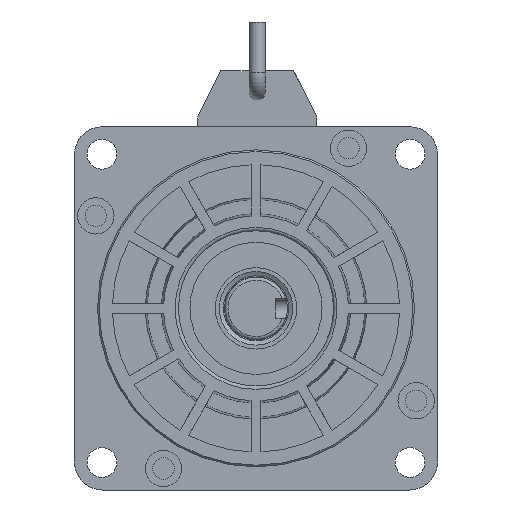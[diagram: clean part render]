
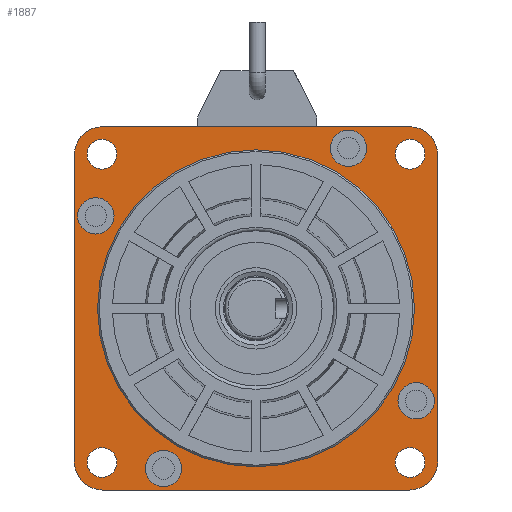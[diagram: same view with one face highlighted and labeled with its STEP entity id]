
A CAD part, front view. The second image highlights one B-rep face of the part: STEP entity #1887.
In plain terms, the highlighted planar face has unit normal (0, -1, 0).
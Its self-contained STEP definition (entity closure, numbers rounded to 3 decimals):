
#795=FACE_BOUND('',#3760,.T.);
#796=FACE_BOUND('',#3761,.T.);
#797=FACE_BOUND('',#3762,.T.);
#798=FACE_BOUND('',#3763,.T.);
#799=FACE_BOUND('',#3764,.T.);
#800=FACE_BOUND('',#3765,.T.);
#801=FACE_BOUND('',#3766,.T.);
#802=FACE_BOUND('',#3767,.T.);
#803=FACE_BOUND('',#3768,.T.);
#804=FACE_BOUND('',#3769,.T.);
#1171=CIRCLE('',#13243,8.5);
#1172=CIRCLE('',#13245,8.5);
#1173=CIRCLE('',#13247,5.5);
#1174=CIRCLE('',#13249,5.5);
#1270=CIRCLE('',#13419,48.);
#1271=CIRCLE('',#13421,4.5);
#1272=CIRCLE('',#13422,4.5);
#1273=CIRCLE('',#13423,4.5);
#1274=CIRCLE('',#13424,4.5);
#1275=CIRCLE('',#13425,8.5);
#1276=CIRCLE('',#13426,8.5);
#1277=CIRCLE('',#13427,5.5);
#1278=CIRCLE('',#13428,5.5);
#1887=ADVANCED_FACE('',(#795,#796,#797,#798,#799,#800,#801,#802,#803,#804),
#2363,.T.);
#2363=PLANE('',#13429);
#3760=EDGE_LOOP('',(#6770));
#3761=EDGE_LOOP('',(#6771));
#3762=EDGE_LOOP('',(#6772));
#3763=EDGE_LOOP('',(#6773));
#3764=EDGE_LOOP('',(#6774,#6775,#6776,#6777,#6778,#6779,#6780,#6781));
#3765=EDGE_LOOP('',(#6782));
#3766=EDGE_LOOP('',(#6783));
#3767=EDGE_LOOP('',(#6784));
#3768=EDGE_LOOP('',(#6785));
#3769=EDGE_LOOP('',(#6786));
#6770=ORIENTED_EDGE('',*,*,#10053,.T.);
#6771=ORIENTED_EDGE('',*,*,#10054,.T.);
#6772=ORIENTED_EDGE('',*,*,#10055,.T.);
#6773=ORIENTED_EDGE('',*,*,#10056,.T.);
#6774=ORIENTED_EDGE('',*,*,#10057,.T.);
#6775=ORIENTED_EDGE('',*,*,#10058,.F.);
#6776=ORIENTED_EDGE('',*,*,#9792,.T.);
#6777=ORIENTED_EDGE('',*,*,#9885,.F.);
#6778=ORIENTED_EDGE('',*,*,#9788,.T.);
#6779=ORIENTED_EDGE('',*,*,#10059,.F.);
#6780=ORIENTED_EDGE('',*,*,#10060,.T.);
#6781=ORIENTED_EDGE('',*,*,#10061,.F.);
#6782=ORIENTED_EDGE('',*,*,#9795,.T.);
#6783=ORIENTED_EDGE('',*,*,#9794,.T.);
#6784=ORIENTED_EDGE('',*,*,#10052,.F.);
#6785=ORIENTED_EDGE('',*,*,#10062,.T.);
#6786=ORIENTED_EDGE('',*,*,#10063,.T.);
#8242=VERTEX_POINT('',#20145);
#8243=VERTEX_POINT('',#20146);
#8244=VERTEX_POINT('',#20151);
#8245=VERTEX_POINT('',#20153);
#8246=VERTEX_POINT('',#20157);
#8247=VERTEX_POINT('',#20160);
#8412=VERTEX_POINT('',#20911);
#8413=VERTEX_POINT('',#20914);
#8414=VERTEX_POINT('',#20916);
#8415=VERTEX_POINT('',#20918);
#8416=VERTEX_POINT('',#20920);
#8417=VERTEX_POINT('',#20922);
#8418=VERTEX_POINT('',#20923);
#8419=VERTEX_POINT('',#20926);
#8420=VERTEX_POINT('',#20928);
#8421=VERTEX_POINT('',#20931);
#8422=VERTEX_POINT('',#20933);
#9788=EDGE_CURVE('',#8242,#8243,#1171,.T.);
#9792=EDGE_CURVE('',#8245,#8244,#1172,.T.);
#9794=EDGE_CURVE('',#8246,#8246,#1173,.T.);
#9795=EDGE_CURVE('',#8247,#8247,#1174,.T.);
#9885=EDGE_CURVE('',#8242,#8244,#11169,.T.);
#10052=EDGE_CURVE('',#8412,#8412,#1270,.T.);
#10053=EDGE_CURVE('',#8413,#8413,#1271,.T.);
#10054=EDGE_CURVE('',#8414,#8414,#1272,.T.);
#10055=EDGE_CURVE('',#8415,#8415,#1273,.T.);
#10056=EDGE_CURVE('',#8416,#8416,#1274,.T.);
#10057=EDGE_CURVE('',#8417,#8418,#1275,.T.);
#10058=EDGE_CURVE('',#8245,#8418,#11253,.T.);
#10059=EDGE_CURVE('',#8419,#8243,#11254,.T.);
#10060=EDGE_CURVE('',#8419,#8420,#1276,.T.);
#10061=EDGE_CURVE('',#8417,#8420,#11255,.T.);
#10062=EDGE_CURVE('',#8421,#8421,#1277,.T.);
#10063=EDGE_CURVE('',#8422,#8422,#1278,.T.);
#11169=LINE('',#20552,#12285);
#11253=LINE('',#20924,#12369);
#11254=LINE('',#20925,#12370);
#11255=LINE('',#20929,#12371);
#12285=VECTOR('',#16259,1.);
#12369=VECTOR('',#16583,1.);
#12370=VECTOR('',#16584,1.);
#12371=VECTOR('',#16587,1.);
#13243=AXIS2_PLACEMENT_3D('',#20144,#16088,#16089);
#13245=AXIS2_PLACEMENT_3D('',#20152,#16095,#16096);
#13247=AXIS2_PLACEMENT_3D('',#20156,#16100,#16101);
#13249=AXIS2_PLACEMENT_3D('',#20159,#16104,#16105);
#13419=AXIS2_PLACEMENT_3D('',#20910,#16569,#16570);
#13421=AXIS2_PLACEMENT_3D('',#20913,#16573,#16574);
#13422=AXIS2_PLACEMENT_3D('',#20915,#16575,#16576);
#13423=AXIS2_PLACEMENT_3D('',#20917,#16577,#16578);
#13424=AXIS2_PLACEMENT_3D('',#20919,#16579,#16580);
#13425=AXIS2_PLACEMENT_3D('',#20921,#16581,#16582);
#13426=AXIS2_PLACEMENT_3D('',#20927,#16585,#16586);
#13427=AXIS2_PLACEMENT_3D('',#20930,#16588,#16589);
#13428=AXIS2_PLACEMENT_3D('',#20932,#16590,#16591);
#13429=AXIS2_PLACEMENT_3D('',#20934,#16592,#16593);
#16088=DIRECTION('',(0.,-1.,0.));
#16089=DIRECTION('',(-1.,0.,0.));
#16095=DIRECTION('',(0.,-1.,0.));
#16096=DIRECTION('',(-1.,0.,0.));
#16100=DIRECTION('',(0.,1.,0.));
#16101=DIRECTION('',(-1.,0.,0.));
#16104=DIRECTION('',(0.,1.,0.));
#16105=DIRECTION('',(-1.,0.,0.));
#16259=DIRECTION('',(0.,0.,1.));
#16569=DIRECTION('',(0.,-1.,0.));
#16570=DIRECTION('',(-1.,0.,0.));
#16573=DIRECTION('',(0.,1.,0.));
#16574=DIRECTION('',(-1.,0.,0.));
#16575=DIRECTION('',(0.,1.,0.));
#16576=DIRECTION('',(-1.,0.,0.));
#16577=DIRECTION('',(0.,1.,0.));
#16578=DIRECTION('',(-1.,0.,0.));
#16579=DIRECTION('',(0.,1.,0.));
#16580=DIRECTION('',(-1.,0.,0.));
#16581=DIRECTION('',(0.,-1.,0.));
#16582=DIRECTION('',(-1.,0.,0.));
#16583=DIRECTION('',(1.,0.,0.));
#16584=DIRECTION('',(-1.,0.,0.));
#16585=DIRECTION('',(0.,-1.,0.));
#16586=DIRECTION('',(-1.,0.,0.));
#16587=DIRECTION('',(0.,0.,-1.));
#16588=DIRECTION('',(0.,1.,0.));
#16589=DIRECTION('',(-1.,0.,0.));
#16590=DIRECTION('',(0.,1.,0.));
#16591=DIRECTION('',(-1.,0.,0.));
#16592=DIRECTION('',(0.,-1.,0.));
#16593=DIRECTION('',(1.,0.,0.));
#20144=CARTESIAN_POINT('',(-242.608,264.796,-148.75));
#20145=CARTESIAN_POINT('',(-251.108,264.796,-148.75));
#20146=CARTESIAN_POINT('',(-242.608,264.796,-157.25));
#20151=CARTESIAN_POINT('',(-251.108,264.796,-55.75));
#20152=CARTESIAN_POINT('',(-242.608,264.796,-55.75));
#20153=CARTESIAN_POINT('',(-242.608,264.796,-47.25));
#20156=CARTESIAN_POINT('',(-244.605,264.796,-74.25));
#20157=CARTESIAN_POINT('',(-250.105,264.796,-74.25));
#20159=CARTESIAN_POINT('',(-224.108,264.796,-150.747));
#20160=CARTESIAN_POINT('',(-229.608,264.796,-150.747));
#20552=CARTESIAN_POINT('',(-251.108,264.796,-102.25));
#20910=CARTESIAN_POINT('',(-196.108,264.796,-102.25));
#20911=CARTESIAN_POINT('',(-244.108,264.796,-102.25));
#20913=CARTESIAN_POINT('',(-149.439,264.796,-55.581));
#20914=CARTESIAN_POINT('',(-153.939,264.796,-55.581));
#20915=CARTESIAN_POINT('',(-242.777,264.796,-55.581));
#20916=CARTESIAN_POINT('',(-247.277,264.796,-55.581));
#20917=CARTESIAN_POINT('',(-242.777,264.796,-148.919));
#20918=CARTESIAN_POINT('',(-247.277,264.796,-148.919));
#20919=CARTESIAN_POINT('',(-149.439,264.796,-148.919));
#20920=CARTESIAN_POINT('',(-153.939,264.796,-148.919));
#20921=CARTESIAN_POINT('',(-149.608,264.796,-55.75));
#20922=CARTESIAN_POINT('',(-141.108,264.796,-55.75));
#20923=CARTESIAN_POINT('',(-149.608,264.796,-47.25));
#20924=CARTESIAN_POINT('',(-196.108,264.796,-47.25));
#20925=CARTESIAN_POINT('',(-196.108,264.796,-157.25));
#20926=CARTESIAN_POINT('',(-149.608,264.796,-157.25));
#20927=CARTESIAN_POINT('',(-149.608,264.796,-148.75));
#20928=CARTESIAN_POINT('',(-141.108,264.796,-148.75));
#20929=CARTESIAN_POINT('',(-141.108,264.796,-102.25));
#20930=CARTESIAN_POINT('',(-147.611,264.796,-130.25));
#20931=CARTESIAN_POINT('',(-153.111,264.796,-130.25));
#20932=CARTESIAN_POINT('',(-168.108,264.796,-53.753));
#20933=CARTESIAN_POINT('',(-173.608,264.796,-53.753));
#20934=CARTESIAN_POINT('',(-196.108,264.796,-102.25));
